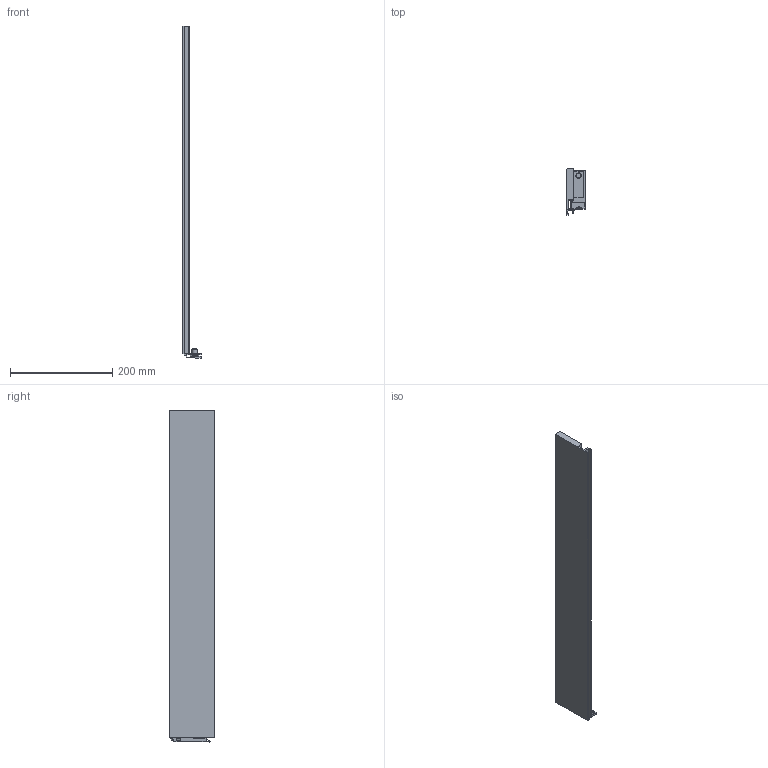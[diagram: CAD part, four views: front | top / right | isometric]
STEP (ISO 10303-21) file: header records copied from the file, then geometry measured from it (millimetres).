
FILE_DESCRIPTION (( 'STEP AP214' ), '1' );
FILE_NAME ('Vionaro_Alu-Zarge_H89_NL650_LI.STEP', '2014-08-18T10:11:59', ( '' ), ( '' ), 'SwSTEP 2.0', 'SolidWorks 2013', '' );
FILE_SCHEMA (( 'AUTOMOTIVE_DESIGN' ));
Length unit declared in the file: millimetre
Products named in the file (1): Vionaro_Alu-Zarge_H89_NL650_LI
Bounding box: 35.6 x 89 x 647.9 mm (x, y, z)
Volume: 578836.5 mm3; surface area: 163776.8 mm2
Topology: 1 solids, 1 shells, 101 faces, 272 edges, 178 vertices
Faces by surface type: plane 81, cylinder 16, cone 4
Entity records: 3162 total; most frequent: CARTESIAN_POINT 558, ORIENTED_EDGE 544, DIRECTION 512, EDGE_CURVE 272, LINE 232, VECTOR 232, VERTEX_POINT 178, AXIS2_PLACEMENT_3D 140
